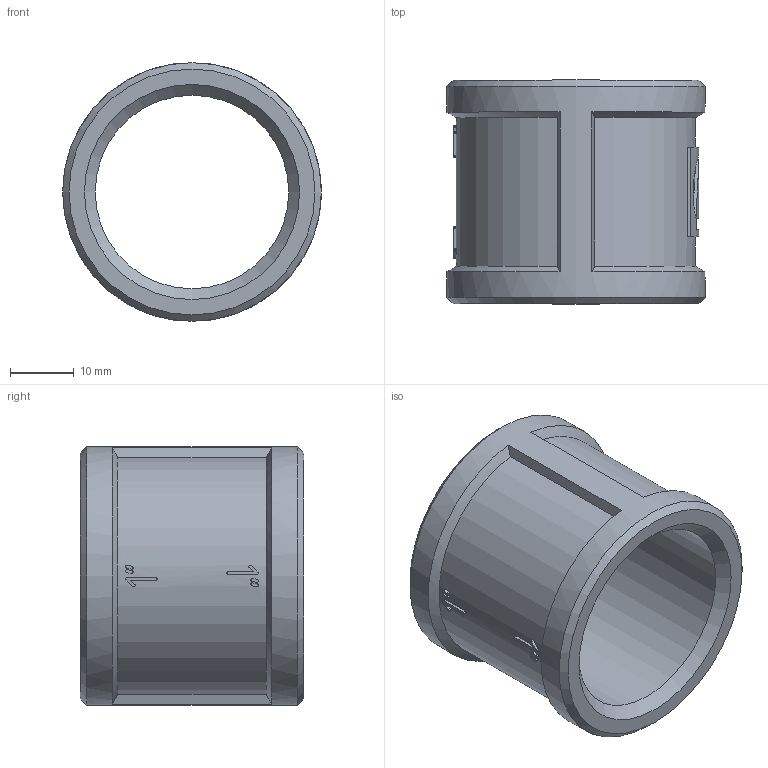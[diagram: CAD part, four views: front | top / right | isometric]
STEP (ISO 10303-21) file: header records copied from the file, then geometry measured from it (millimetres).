
FILE_DESCRIPTION(('STEP AP203'), '1');
FILE_NAME('ﾂﾐ.713461.003 - VTr.270.N.0006 ﾌ G1', '2024-06-27T12:54:48', ('Boss'), (''), 'C3D Converter', 'C3D Toolkit', '');
FILE_SCHEMA(('CONFIG_CONTROL_DESIGN'));
Length unit declared in the file: millimetre
Products named in the file (1): ВР.713461.003
Bounding box: 40.5 x 35 x 40.5 mm (x, y, z)
Volume: 15470.7 mm3; surface area: 8755.8 mm2
Topology: 1 solids, 1 shells, 120 faces, 320 edges, 212 vertices
Faces by surface type: extrusion 54, plane 44, cylinder 14, cone 8
Full cylindrical faces by diameter (mm): 30.292 x1, 40.5 x1
Entity records: 5038 total; most frequent: CARTESIAN_POINT 2370, ORIENTED_EDGE 626, DIRECTION 369, EDGE_CURVE 313, VERTEX_POINT 212, VECTOR 175, B_SPLINE_CURVE_WITH_KNOTS 172, EDGE_LOOP 139
